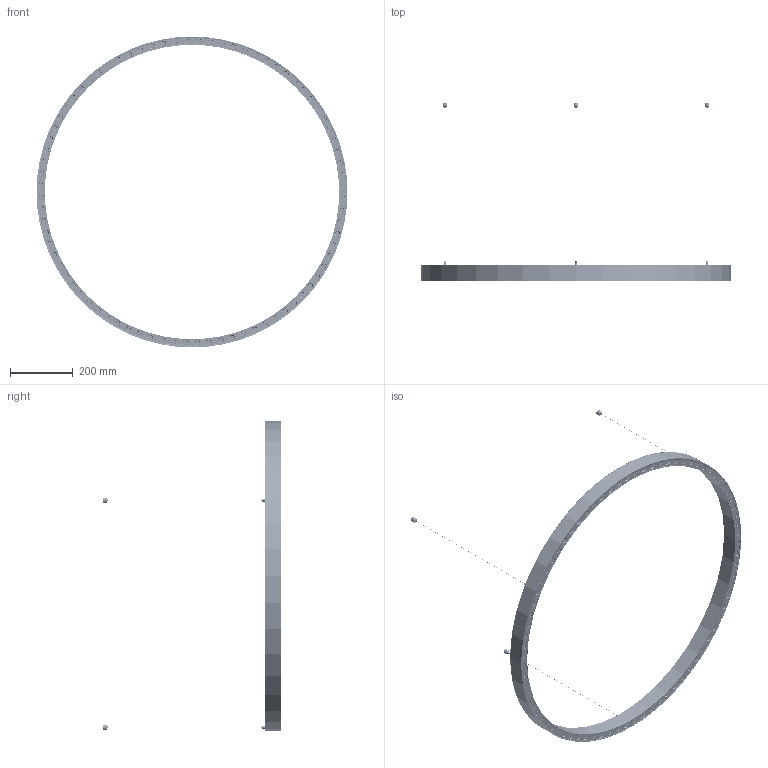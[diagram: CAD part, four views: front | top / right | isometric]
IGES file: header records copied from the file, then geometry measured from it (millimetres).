
Start section: SolidWorks IGES file using analytic representation for surfaces
Global section: file name: L:\Tecnico_PMT\R&D\PROGETTI ROADMAP 2023\ZIRKOL CIRCLE UGR\3D\DIAM 995\3D PER SITO\EXPORT\ZIRKOL UGR D995_rev1_SITO.IGS; native system: SolidWorks 2016; preprocessor: SolidWorks 2016; author: DavideGazzarata; date: 240223.151743; units: millimetre
Bounding box: 994.7 x 569.88 x 994.7 mm (x, y, z)
Surface area: 1268896.8 mm2 (no closed solid volume)
Topology: 0 solids, 0 shells, 4366 faces, 71137 edges, 71124 vertices
Faces by surface type: bspline 2711, revolution 1655
